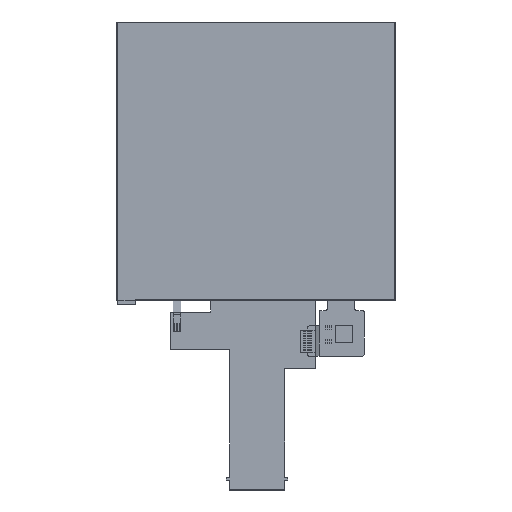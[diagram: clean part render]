
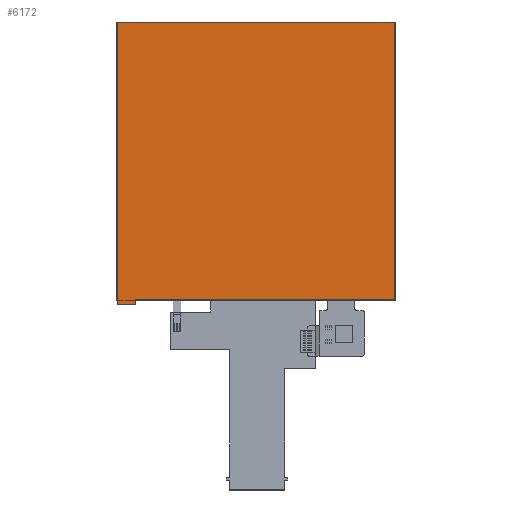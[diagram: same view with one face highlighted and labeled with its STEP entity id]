
A CAD part, top view. The second image highlights one B-rep face of the part: STEP entity #6172.
In plain terms, the highlighted planar face has unit normal (0, 0, 1).
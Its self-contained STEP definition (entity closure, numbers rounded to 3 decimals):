
#5883 = VERTEX_POINT('',#5884);
#5884 = CARTESIAN_POINT('',(77.9,0.2,3.15));
#5890 = EDGE_CURVE('',#5883,#5891,#5893,.T.);
#5891 = VERTEX_POINT('',#5892);
#5892 = CARTESIAN_POINT('',(5.4,0.2,3.15));
#5893 = LINE('',#5894,#5895);
#5894 = CARTESIAN_POINT('',(78.1,0.2,3.15));
#5895 = VECTOR('',#5896,1.);
#5896 = DIRECTION('',(-1.,0.,0.));
#5914 = VERTEX_POINT('',#5915);
#5915 = CARTESIAN_POINT('',(78.1,0.4,3.15));
#5921 = EDGE_CURVE('',#5883,#5914,#5922,.T.);
#5922 = CIRCLE('',#5923,0.2);
#5923 = AXIS2_PLACEMENT_3D('',#5924,#5925,#5926);
#5924 = CARTESIAN_POINT('',(77.9,0.4,3.15));
#5925 = DIRECTION('',(-0.,0.,1.));
#5926 = DIRECTION('',(0.,-1.,0.));
#5939 = EDGE_CURVE('',#5940,#5891,#5942,.T.);
#5940 = VERTEX_POINT('',#5941);
#5941 = CARTESIAN_POINT('',(5.2,0.,3.15));
#5942 = CIRCLE('',#5943,0.2);
#5943 = AXIS2_PLACEMENT_3D('',#5944,#5945,#5946);
#5944 = CARTESIAN_POINT('',(5.4,0.,3.15));
#5945 = DIRECTION('',(-0.,-0.,-1.));
#5946 = DIRECTION('',(0.,-1.,0.));
#5964 = VERTEX_POINT('',#5965);
#5965 = CARTESIAN_POINT('',(78.1,77.9,3.15));
#5971 = EDGE_CURVE('',#5964,#5914,#5972,.T.);
#5972 = LINE('',#5973,#5974);
#5973 = CARTESIAN_POINT('',(78.1,78.1,3.15));
#5974 = VECTOR('',#5975,1.);
#5975 = DIRECTION('',(0.,-1.,0.));
#5988 = VERTEX_POINT('',#5989);
#5989 = CARTESIAN_POINT('',(77.9,78.1,3.15));
#5995 = EDGE_CURVE('',#5964,#5988,#5996,.T.);
#5996 = CIRCLE('',#5997,0.2);
#5997 = AXIS2_PLACEMENT_3D('',#5998,#5999,#6000);
#5998 = CARTESIAN_POINT('',(77.9,77.9,3.15));
#5999 = DIRECTION('',(-0.,0.,1.));
#6000 = DIRECTION('',(0.,-1.,0.));
#6013 = VERTEX_POINT('',#6014);
#6014 = CARTESIAN_POINT('',(0.4,78.1,3.15));
#6020 = EDGE_CURVE('',#6013,#5988,#6021,.T.);
#6021 = LINE('',#6022,#6023);
#6022 = CARTESIAN_POINT('',(0.2,78.1,3.15));
#6023 = VECTOR('',#6024,1.);
#6024 = DIRECTION('',(1.,0.,0.));
#6037 = VERTEX_POINT('',#6038);
#6038 = CARTESIAN_POINT('',(0.2,77.9,3.15));
#6044 = EDGE_CURVE('',#6013,#6037,#6045,.T.);
#6045 = CIRCLE('',#6046,0.2);
#6046 = AXIS2_PLACEMENT_3D('',#6047,#6048,#6049);
#6047 = CARTESIAN_POINT('',(0.4,77.9,3.15));
#6048 = DIRECTION('',(-0.,0.,1.));
#6049 = DIRECTION('',(0.,-1.,0.));
#6062 = VERTEX_POINT('',#6063);
#6063 = CARTESIAN_POINT('',(0.2,-1.,3.15));
#6069 = EDGE_CURVE('',#6062,#6037,#6070,.T.);
#6070 = LINE('',#6071,#6072);
#6071 = CARTESIAN_POINT('',(0.2,-1.2,3.15));
#6072 = VECTOR('',#6073,1.);
#6073 = DIRECTION('',(0.,1.,0.));
#6087 = EDGE_CURVE('',#5940,#6088,#6090,.T.);
#6088 = VERTEX_POINT('',#6089);
#6089 = CARTESIAN_POINT('',(5.2,-1.,3.15));
#6090 = LINE('',#6091,#6092);
#6091 = CARTESIAN_POINT('',(5.2,0.2,3.15));
#6092 = VECTOR('',#6093,1.);
#6093 = DIRECTION('',(0.,-1.,0.));
#6111 = VERTEX_POINT('',#6112);
#6112 = CARTESIAN_POINT('',(5.,-1.2,3.15));
#6118 = EDGE_CURVE('',#6088,#6111,#6119,.T.);
#6119 = CIRCLE('',#6120,0.2);
#6120 = AXIS2_PLACEMENT_3D('',#6121,#6122,#6123);
#6121 = CARTESIAN_POINT('',(5.,-1.,3.15));
#6122 = DIRECTION('',(-0.,-0.,-1.));
#6123 = DIRECTION('',(0.,-1.,0.));
#6136 = EDGE_CURVE('',#6111,#6137,#6139,.T.);
#6137 = VERTEX_POINT('',#6138);
#6138 = CARTESIAN_POINT('',(0.4,-1.2,3.15));
#6139 = LINE('',#6140,#6141);
#6140 = CARTESIAN_POINT('',(5.2,-1.2,3.15));
#6141 = VECTOR('',#6142,1.);
#6142 = DIRECTION('',(-1.,0.,0.));
#6160 = EDGE_CURVE('',#6062,#6137,#6161,.T.);
#6161 = CIRCLE('',#6162,0.2);
#6162 = AXIS2_PLACEMENT_3D('',#6163,#6164,#6165);
#6163 = CARTESIAN_POINT('',(0.4,-1.,3.15));
#6164 = DIRECTION('',(-0.,0.,1.));
#6165 = DIRECTION('',(0.,-1.,0.));
#6172 = ADVANCED_FACE('',(#6173),#6187,.T.);
#6173 = FACE_BOUND('',#6174,.T.);
#6174 = EDGE_LOOP('',(#6175,#6176,#6177,#6178,#6179,#6180,#6181,#6182,
    #6183,#6184,#6185,#6186));
#6175 = ORIENTED_EDGE('',*,*,#6020,.F.);
#6176 = ORIENTED_EDGE('',*,*,#6044,.T.);
#6177 = ORIENTED_EDGE('',*,*,#6069,.F.);
#6178 = ORIENTED_EDGE('',*,*,#6160,.T.);
#6179 = ORIENTED_EDGE('',*,*,#6136,.F.);
#6180 = ORIENTED_EDGE('',*,*,#6118,.F.);
#6181 = ORIENTED_EDGE('',*,*,#6087,.F.);
#6182 = ORIENTED_EDGE('',*,*,#5939,.T.);
#6183 = ORIENTED_EDGE('',*,*,#5890,.F.);
#6184 = ORIENTED_EDGE('',*,*,#5921,.T.);
#6185 = ORIENTED_EDGE('',*,*,#5971,.F.);
#6186 = ORIENTED_EDGE('',*,*,#5995,.T.);
#6187 = PLANE('',#6188);
#6188 = AXIS2_PLACEMENT_3D('',#6189,#6190,#6191);
#6189 = CARTESIAN_POINT('',(38.825,38.775,3.15));
#6190 = DIRECTION('',(0.,0.,1.));
#6191 = DIRECTION('',(1.,0.,0.));
